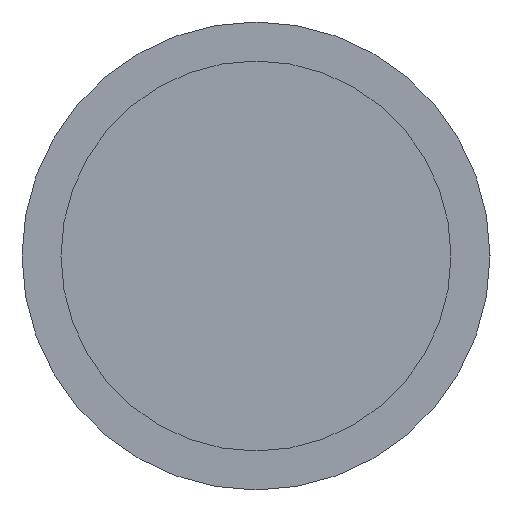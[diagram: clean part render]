
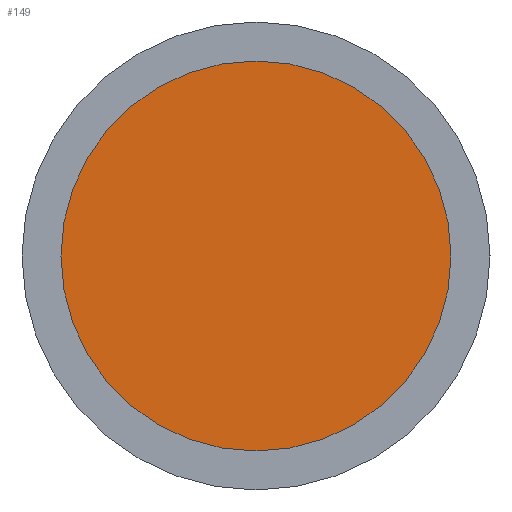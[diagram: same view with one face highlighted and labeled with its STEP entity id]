
A CAD part, left-side view. The second image highlights one B-rep face of the part: STEP entity #149.
In plain terms, the highlighted planar face has unit normal (-1, 0, 0).
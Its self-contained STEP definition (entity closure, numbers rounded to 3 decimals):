
#25=ORIENTED_EDGE('',*,*,#39,.F.);
#39=EDGE_CURVE('',#46,#46,#53,.T.);
#46=VERTEX_POINT('',#212);
#53=CIRCLE('',#163,2.5);
#60=EDGE_LOOP('',(#25));
#74=FACE_BOUND('',#60,.T.);
#88=PLANE('',#162);
#149=ADVANCED_FACE('',(#74),#88,.F.);
#162=AXIS2_PLACEMENT_3D('',#210,#179,#180);
#163=AXIS2_PLACEMENT_3D('',#211,#181,#182);
#179=DIRECTION('',(1.,0.,0.));
#180=DIRECTION('',(0.,0.,-1.));
#181=DIRECTION('',(1.,0.,0.));
#182=DIRECTION('',(0.,0.,-1.));
#210=CARTESIAN_POINT('',(-13.3,0.,0.));
#211=CARTESIAN_POINT('',(-13.3,0.,0.));
#212=CARTESIAN_POINT('',(-13.3,0.,-2.5));
